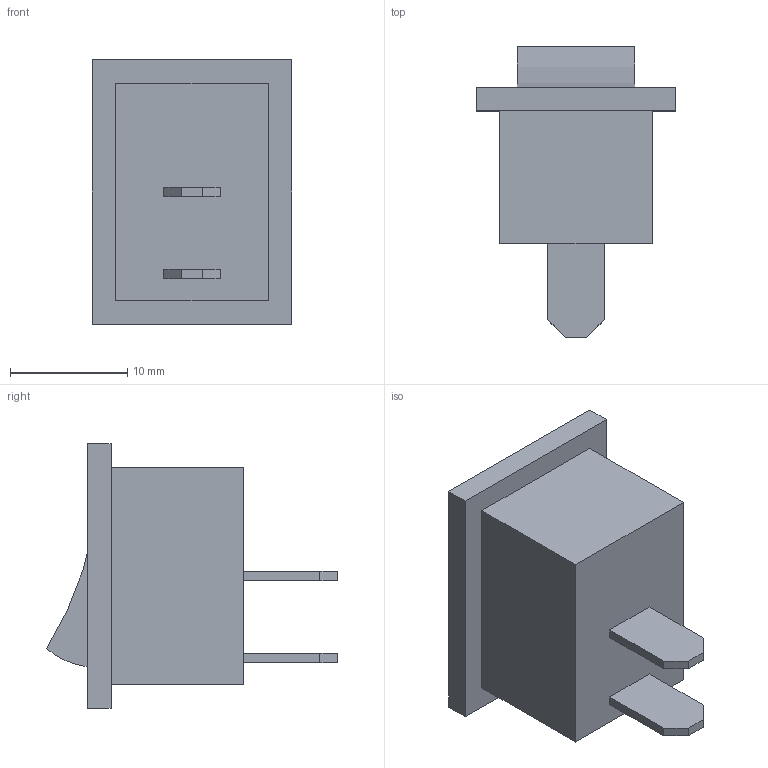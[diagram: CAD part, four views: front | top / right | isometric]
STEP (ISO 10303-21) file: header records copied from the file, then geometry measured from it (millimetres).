
FILE_DESCRIPTION (( 'STEP AP214' ), '1' );
FILE_NAME ('B100G.STEP', '2011-02-01T06:38:52', ( 'vpeshkov' ), ( 'cad-design.ru' ), 'SwSTEP 2.0', 'SolidWorks 2009', '' );
FILE_SCHEMA (( 'AUTOMOTIVE_DESIGN' ));
Length unit declared in the file: millimetre
Products named in the file (1): B100G
Bounding box: 17 x 24.8 x 22.5 mm (x, y, z)
Volume: 3611.6 mm3; surface area: 1956.8 mm2
Topology: 1 solids, 1 shells, 35 faces, 84 edges, 56 vertices
Faces by surface type: plane 32, cylinder 3
Entity records: 1247 total; most frequent: CARTESIAN_POINT 176, ORIENTED_EDGE 168, DIRECTION 162, EDGE_CURVE 84, VECTOR 78, LINE 78, VERTEX_POINT 56, AXIS2_PLACEMENT_3D 42
